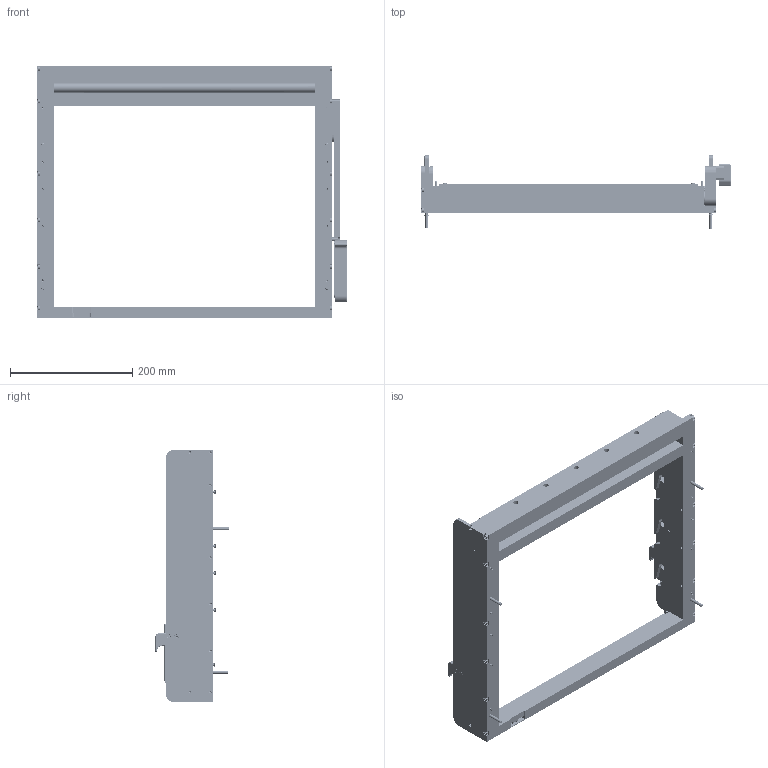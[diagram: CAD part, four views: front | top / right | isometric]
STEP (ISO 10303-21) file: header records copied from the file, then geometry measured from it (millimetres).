
FILE_DESCRIPTION(/* description */ (''),/* implementation_level */ '2;1');
FILE_NAME(/* name */ 'Z:\Inventor\Inventor Web Projects\STP files\561960-RevD-STP.stp',/* time_stamp */ '2014-09-19T10:06:33-04:00',/* author */ ('shodnett'),/* organization */ (''),/* preprocessor_version */ 'ST-DEVELOPER v15.2',/* originating_system */ 'Autodesk Inventor 2014',/* authorisation */ '');
FILE_SCHEMA (('AUTOMOTIVE_DESIGN { 1 0 10303 214 3 1 1 }'));
Products named in the file (1): 561960-CU_NEW
Bounding box: 505.97 x 120.59 x 411.9 mm (x, y, z)
Surface area: 699217 mm2 (no closed solid volume)
Topology: 0 solids, 127 shells, 5449 faces, 13325 edges, 8420 vertices
Faces by surface type: plane 2451, cylinder 1235, cone 1026, bspline 675, torus 44, sphere 18
Full cylindrical faces by diameter (mm): 0.005 x2, 0.051 x2, 1.524 x4, 1.981 x1, 2.184 x4, 2.322 x7, 2.362 x2, 2.388 x2, 2.642 x15, 2.794 x1, 2.946 x2, 2.972 x1, 3.175 x5, 3.251 x4, 3.277 x2, 3.302 x16, 3.505 x19, 3.551 x272, 3.556 x1, 3.81 x4, 3.962 x5, 3.967 x2, 4.166 x286, 4.496 x15, 4.521 x42, 4.762 x28, 4.826 x11, 4.928 x6, 4.953 x1, 5.105 x14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
Entity records: 173985 total; most frequent: CARTESIAN_POINT 58378, ORIENTED_EDGE 22174, DIRECTION 20225, EDGE_CURVE 11087, VERTEX_POINT 8039, EDGE_LOOP 7886, AXIS2_PLACEMENT_3D 7445, ADVANCED_FACE 5449
